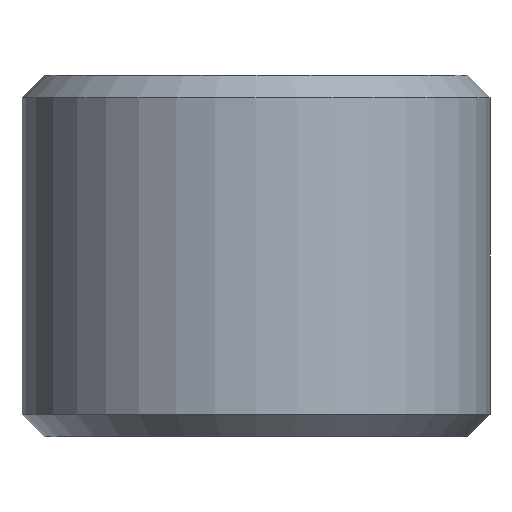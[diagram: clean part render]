
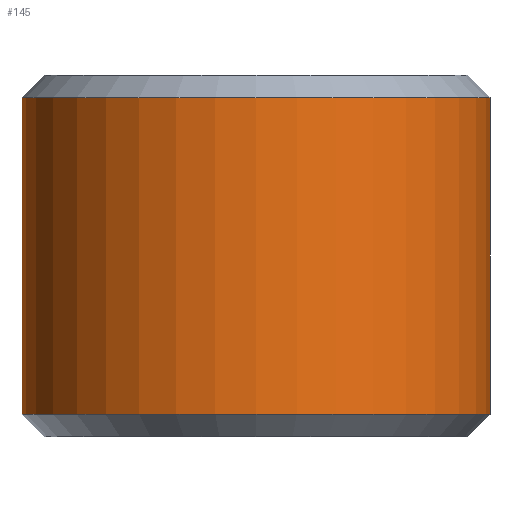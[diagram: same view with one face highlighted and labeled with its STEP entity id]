
A CAD part, front view. The second image highlights one B-rep face of the part: STEP entity #145.
In plain terms, the highlighted cylindrical face has radius 10.35 mm (diameter 20.7 mm), a partial arc.
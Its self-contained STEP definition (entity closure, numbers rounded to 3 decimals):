
#1 = VECTOR ( 'NONE', #348, 1000. ) ;
#5 = VECTOR ( 'NONE', #195, 1000. ) ;
#20 = CARTESIAN_POINT ( 'NONE',  ( 0., 0., 7. ) ) ;
#32 = CARTESIAN_POINT ( 'NONE',  ( -10.35, 0., -7. ) ) ;
#45 = ORIENTED_EDGE ( 'NONE', *, *, #86, .F. ) ;
#47 = CARTESIAN_POINT ( 'NONE',  ( -10.35, 0., 7. ) ) ;
#50 = CARTESIAN_POINT ( 'NONE',  ( -10.35, 0., 8. ) ) ;
#75 = CARTESIAN_POINT ( 'NONE',  ( 0., 0., -7. ) ) ;
#81 = LINE ( 'NONE', #50, #5 ) ;
#82 = LINE ( 'NONE', #170, #1 ) ;
#84 = AXIS2_PLACEMENT_3D ( 'NONE', #20, #217, #324 ) ;
#86 = EDGE_CURVE ( 'NONE', #314, #184, #82, .T. ) ;
#93 = ORIENTED_EDGE ( 'NONE', *, *, #251, .T. ) ;
#109 = DIRECTION ( 'NONE',  ( 1., 0., 0. ) ) ;
#133 = DIRECTION ( 'NONE',  ( -1., 0., 0. ) ) ;
#144 = DIRECTION ( 'NONE',  ( 0., 0., 1. ) ) ;
#145 = ADVANCED_FACE ( 'NONE', ( #166 ), #169, .T. ) ;
#162 = AXIS2_PLACEMENT_3D ( 'NONE', #272, #248, #133 ) ;
#165 = ORIENTED_EDGE ( 'NONE', *, *, #218, .T. ) ;
#166 = FACE_OUTER_BOUND ( 'NONE', #236, .T. ) ;
#169 = CYLINDRICAL_SURFACE ( 'NONE', #162, 10.35 ) ;
#170 = CARTESIAN_POINT ( 'NONE',  ( 10.35, 0., 8. ) ) ;
#180 = VERTEX_POINT ( 'NONE', #47 ) ;
#184 = VERTEX_POINT ( 'NONE', #323 ) ;
#186 = ORIENTED_EDGE ( 'NONE', *, *, #211, .T. ) ;
#195 = DIRECTION ( 'NONE',  ( 0., 0., -1. ) ) ;
#198 = AXIS2_PLACEMENT_3D ( 'NONE', #75, #144, #109 ) ;
#211 = EDGE_CURVE ( 'NONE', #338, #184, #342, .T. ) ;
#217 = DIRECTION ( 'NONE',  ( 0., 0., -1. ) ) ;
#218 = EDGE_CURVE ( 'NONE', #314, #180, #243, .T. ) ;
#236 = EDGE_LOOP ( 'NONE', ( #45, #165, #93, #186 ) ) ;
#243 = CIRCLE ( 'NONE', #84, 10.35 ) ;
#248 = DIRECTION ( 'NONE',  ( 0., 0., -1. ) ) ;
#251 = EDGE_CURVE ( 'NONE', #180, #338, #81, .T. ) ;
#272 = CARTESIAN_POINT ( 'NONE',  ( 0., 0., 8. ) ) ;
#314 = VERTEX_POINT ( 'NONE', #331 ) ;
#323 = CARTESIAN_POINT ( 'NONE',  ( 10.35, 0., -7. ) ) ;
#324 = DIRECTION ( 'NONE',  ( 1., 0., 0. ) ) ;
#331 = CARTESIAN_POINT ( 'NONE',  ( 10.35, 0., 7. ) ) ;
#338 = VERTEX_POINT ( 'NONE', #32 ) ;
#342 = CIRCLE ( 'NONE', #198, 10.35 ) ;
#348 = DIRECTION ( 'NONE',  ( 0., 0., -1. ) ) ;
